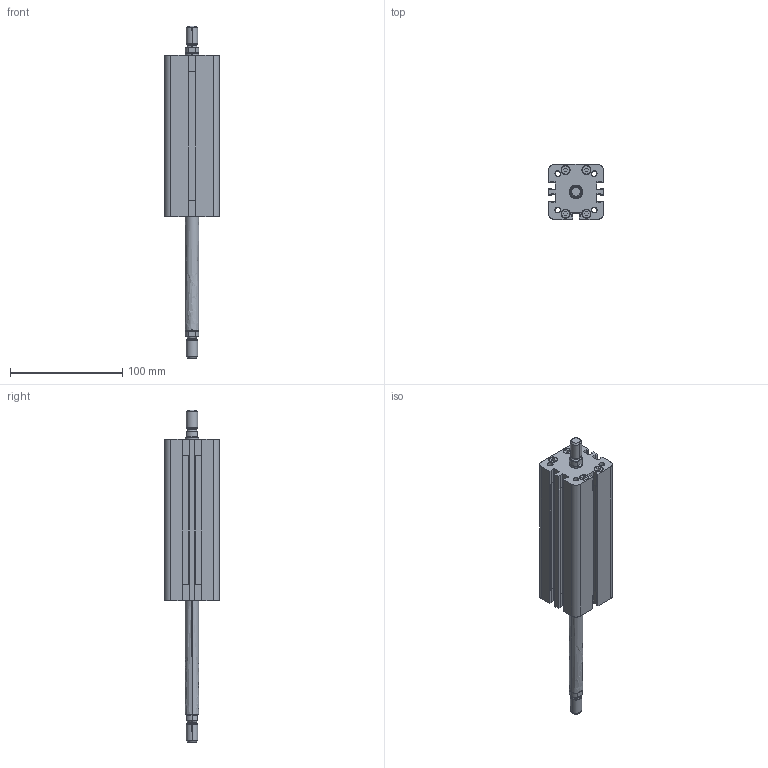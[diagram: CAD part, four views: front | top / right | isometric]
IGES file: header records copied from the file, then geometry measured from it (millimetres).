
Start section: SolidWorks IGES file using analytic representation for surfaces
Global section: file name: K:\Disegni Esecutivi\Cilindri\2_DISEGNI_cilindri_in_produzione\CILINDRO_ISO_21287\seconda versione cilindro 21287\2_CIL32\COMPLESSIVI _W_32\3D_W32_pieni\WJM32_pieni\WJM0320100A.igs; native system: SolidWorks 2011; preprocessor: SolidWorks 2011; author: Cad01; date: 120804.092132; units: millimetre
Bounding box: 49 x 49 x 296 mm (x, y, z)
Surface area: 58239 mm2 (no closed solid volume)
Topology: 0 solids, 0 shells, 441 faces, 4865 edges, 4865 vertices
Faces by surface type: bspline 224, revolution 217
